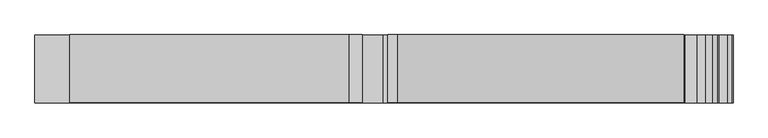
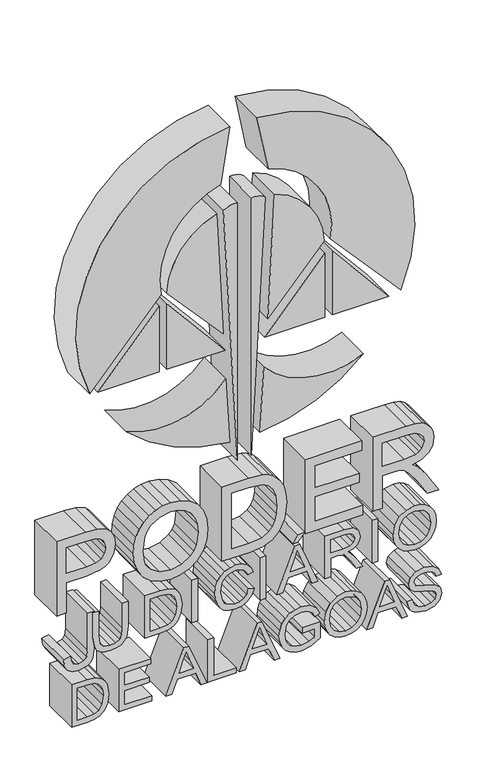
"""IFC4 building model written with IfcOpenShell, lengths in millimetres: furniture geometry, Logomarca para revit : Logomarca para revit."""

from ifc_helpers import new_model, si_unit, point, frame, frame_2d, origin, place, context, project, spatial, polyline, circle_curve, trimmed, segment, composite_curve, outline, extrude, source, transform, mapped, element, save


def furniture_1719f5d7(model_context):
    return source(origin(), model_context, "Body", "SweptSolid", [
        extrude(outline(polyline([(56.25, 421.6920671), (33.3398438, 428.1666764), (24.4775391, 435.4799089), (18.1640625, 445.1149186), (13.125, 471.9069108), (17.7978516, 494.5973405), (30.8935547, 510.0660905), (48.8378906, 515.4420671), (65.8007813, 510.7692155), (77.9589844, 496.2526139), (85.4882813, 469.7096452), (93.8671875, 445.2174577), (104.2675781, 440.4420671), (111.027832, 442.1266374), (116.71875, 447.1803483), (120.5859375, 455.9181413), (121.875, 468.6549577), (120.5712891, 481.0988054), (116.6601563, 490.0709733), (110.2001953, 495.8131608), (101.25, 498.5670671), (101.25, 513.5670671), (120.0292969, 507.6198014), (132.5976563, 491.7994889), (136.875, 468.0690202), (132.7880859, 445.8326921), (120.8056641, 430.6422624), (103.828125, 425.4420671), (88.9160156, 429.6461686), (77.7539063, 442.4049577), (70.3564453, 465.9156999), (64.6289063, 487.7565202), (57.8173828, 497.9518327), (48.4570313, 500.4420671), (38.3935547, 497.1168718), (30.8642578, 486.9948014), (28.125, 471.3209733), (31.7431641, 453.3326921), (41.2353516, 441.5260514), (56.25, 436.6920671), (56.25, 421.6920671)])), frame((0.0, -100.0, 0.0), z_axis=(0.0, 1.0, 0.0), x_axis=(0.0, 0.0, 1.0)), (0.0, 0.0, 1.0), 100.0),
        extrude(outline(polyline([(15.0, 315.1141803), (15.0, 330.9637897), (52.5, 344.6747272), (52.5, 394.0985553), (15.0, 407.8387897), (15.0, 423.688399), (135.0, 375.7880084), (135.0, 363.0145709), (15.0, 315.1141803)]), holes=[polyline([(67.5, 350.1825397), (99.5800781, 361.9305865), (120.0, 369.4012897), (97.0019531, 377.8094928), (67.5, 388.6200397), (67.5, 350.1825397)])]), frame((0.0, -100.0, 0.0), z_axis=(0.0, 1.0, 0.0), x_axis=(0.0, 0.0, 1.0)), (0.0, 0.0, 1.0), 100.0),
        extrude(outline(polyline([(77.6453805, 201.6816027), (62.2974801, 203.3954699), (47.7772164, 208.5370714), (35.1575875, 217.0038683), (25.5115914, 228.6933214), (19.3922066, 242.8876574), (17.3524117, 258.8691027), (19.1981148, 273.9240343), (24.7352242, 287.9169543), (33.8612008, 299.8481066), (46.4735055, 308.7177355), (61.7884469, 314.2218859), (79.0223336, 316.0566027), (96.0291695, 314.3134386), (111.1317086, 309.0839464), (123.7220406, 300.5292589), (133.1922555, 288.8105089), (139.1248727, 274.6967394), (141.1024117, 258.9569933), (136.8909859, 235.9955675), (124.2567086, 217.6776964), (104.181025, 205.6806261), (77.6453805, 201.6816027)]), holes=[polyline([(77.4988961, 216.6816027), (99.9439645, 219.8090441), (114.896357, 229.1913683), (123.300898, 242.90963), (126.1024117, 259.0448839), (120.286982, 281.0614855), (113.2813668, 289.6857531), (103.8953805, 295.9589464), (79.1395211, 301.0566027), (59.2835641, 298.0793078), (44.5399117, 289.147423), (35.3992867, 275.6012804), (32.3524117, 258.7812121), (35.3699898, 242.2028429), (44.4227242, 228.678673), (58.7269234, 219.6808703), (77.4988961, 216.6816027)])]), frame((0.0, -100.0, 0.0), z_axis=(0.0, 1.0, 0.0), x_axis=(0.0, 0.0, 1.0)), (0.0, 0.0, 1.0), 100.0),
        extrude(outline(polyline([(65.4977347, 143.0042725), (65.4977347, 176.7542725), (43.8180472, 176.7542725), (35.6002737, 161.5638428), (31.7477347, 141.0413819), (36.8600394, 118.175171), (43.3273245, 108.6903077), (52.5045706, 101.768921), (64.3075491, 97.5391846), (78.6520316, 96.1292725), (102.2067191, 100.8167725), (113.7643362, 108.5364991), (122.26043, 121.6029053), (125.4977347, 140.8070069), (122.494805, 157.6673585), (114.4967581, 169.3568116), (100.6246878, 176.1976319), (104.5211722, 190.0257569), (124.369805, 180.9583741), (136.2350394, 164.5081788), (140.4977347, 141.0413819), (138.6593558, 124.2103272), (133.1442191, 109.4593507), (123.8461234, 97.348755), (110.6588675, 88.4388428), (94.9374319, 82.9566651), (78.0367972, 81.1292725), (61.257012, 82.9639893), (46.1325003, 88.4681397), (33.5238577, 97.5721436), (24.29168, 110.206421), (18.633721, 125.4151612), (16.7477347, 142.2425538), (21.4938284, 167.6868897), (35.6442191, 191.7542725), (80.4977347, 191.7542725), (80.4977347, 143.0042725), (65.4977347, 143.0042725)])), frame((0.0, -100.0, 0.0), z_axis=(0.0, 1.0, 0.0), x_axis=(0.0, 0.0, 1.0)), (0.0, 0.0, 1.0), 100.0),
        extrude(outline(polyline([(15.0, -24.6363138), (15.0, -8.7867045), (52.5, 4.924233), (52.5, 54.3480612), (15.0, 68.0882955), (15.0, 83.9379049), (135.0, 36.0375143), (135.0, 23.2640768), (15.0, -24.6363138)]), holes=[polyline([(67.5, 10.4320455), (99.5800781, 22.1800924), (120.0, 29.6507955), (97.0019531, 38.0589987), (67.5, 48.8695455), (67.5, 10.4320455)])]), frame((0.0, -100.0, 0.0), z_axis=(0.0, 1.0, 0.0), x_axis=(0.0, 0.0, 1.0)), (0.0, 0.0, 1.0), 100.0),
        extrude(outline(polyline([(15.0, -108.0469996), (15.0, -33.0469996), (30.0, -33.0469996), (30.0, -93.0469996), (135.0, -93.0469996), (135.0, -108.0469996), (15.0, -108.0469996)])), frame((0.0, -100.0, 0.0), z_axis=(0.0, 1.0, 0.0), x_axis=(0.0, 0.0, 1.0)), (0.0, 0.0, 1.0), 100.0),
        extrude(outline(polyline([(15.0, -219.9345631), (15.0, -204.0849537), (52.5, -190.3740162), (52.5, -140.9501881), (15.0, -127.2099537), (15.0, -111.3603444), (135.0, -159.260735), (135.0, -172.0341725), (15.0, -219.9345631)]), holes=[polyline([(67.5, -184.8662037), (99.5800781, -173.1181569), (120.0, -165.6474537), (97.0019531, -157.2392506), (67.5, -146.4287037), (67.5, -184.8662037)])]), frame((0.0, -100.0, 0.0), z_axis=(0.0, 1.0, 0.0), x_axis=(0.0, 0.0, 1.0)), (0.0, 0.0, 1.0), 100.0),
        extrude(outline(polyline([(15.0, -346.2553142), (15.0, -258.1303142), (30.0, -258.1303142), (30.0, -331.2553142), (69.375, -331.2553142), (69.375, -263.7553142), (84.375, -263.7553142), (84.375, -331.2553142), (120.0, -331.2553142), (120.0, -260.0053142), (135.0, -260.0053142), (135.0, -346.2553142), (15.0, -346.2553142)])), frame((0.0, -100.0, 0.0), z_axis=(0.0, 1.0, 0.0), x_axis=(0.0, 0.0, 1.0)), (0.0, 0.0, 1.0), 100.0),
        extrude(outline(polyline([(15.0, -471.4672869), (15.0, -428.078615), (17.0507813, -408.7866228), (23.0712891, -394.4458025), (33.9550781, -383.4887713), (51.4306641, -375.2856463), (75.6445313, -372.0922869), (104.1796875, -376.8090838), (115.546875, -382.7197283), (124.6875, -391.0180682), (133.2714844, -408.6547869), (135.0, -430.0708025), (135.0, -471.4672869), (15.0, -471.4672869)]), holes=[polyline([(30.0, -456.4672869), (120.0, -456.4672869), (120.0, -430.3344744), (117.5976563, -409.0649432), (112.5878906, -400.58716), (104.296875, -393.4936541), (92.2265625, -388.6926287), (75.8789063, -387.0922869), (53.1884766, -390.3588885), (38.2910156, -399.484865), (32.1679688, -410.6176775), (30.0, -429.9243182), (30.0, -456.4672869)])]), frame((0.0, -100.0, 0.0), z_axis=(0.0, 1.0, 0.0), x_axis=(0.0, 0.0, 1.0)), (0.0, 0.0, 1.0), 100.0),
        extrude(outline(polyline([(256.0319515, 385.8694508), (240.6840511, 387.5833179), (226.1637875, 392.7249195), (213.5441586, 401.1917164), (203.8981625, 412.8811695), (197.7787777, 427.0755054), (195.7389828, 443.0569508), (197.5846859, 458.1118824), (203.1217953, 472.1048023), (212.2477718, 484.0359547), (224.8600765, 492.9055836), (240.1750179, 498.409734), (257.4089046, 500.2444508), (274.4157406, 498.5012867), (289.5182796, 493.2717945), (302.1086117, 484.717107), (311.5788265, 472.998357), (317.5114437, 458.8845875), (319.4889828, 443.1448414), (315.277557, 420.1834156), (302.6432796, 401.8655445), (282.5675961, 389.8684742), (256.0319515, 385.8694508)]), holes=[polyline([(255.8854671, 400.8694508), (278.3305355, 403.9968922), (293.2829281, 413.3792164), (301.6874691, 427.0974781), (304.4889828, 443.232732), (298.6735531, 465.2493336), (291.6679378, 473.8736011), (282.2819515, 480.1467945), (257.5260921, 485.2444508), (237.6701351, 482.2671558), (222.9264828, 473.3352711), (213.7858578, 459.7891285), (210.7389828, 442.9690601), (213.7565609, 426.390691), (222.8092953, 412.8665211), (237.1134945, 403.8687183), (255.8854671, 400.8694508)])]), frame((0.0, -100.0, 0.0), z_axis=(0.0, 1.0, 0.0), x_axis=(0.0, 0.0, 1.0)), (0.0, 0.0, 1.0), 100.0),
        extrude(outline(polyline([(344.9090474, -100.0), (329.9090474, -100.0), (329.9090474, 0.0), (344.9090474, 0.0), (344.9090474, -100.0)])), frame((0.0, 0.0, 197.6139828), z_axis=(0.0, 0.0, 1.0), x_axis=(1.0, 0.0, 0.0)), (0.0, 0.0, 1.0), 120.0),
        extrude(outline(polyline([(197.6139828, 203.8553296), (197.6139828, 218.8553296), (250.1139828, 218.8553296), (250.1139828, 236.9607983), (249.586639, 245.6619702), (246.7301937, 252.7957593), (238.9518734, 260.720564), (222.4870296, 271.9998608), (197.6139828, 287.6150952), (197.6139828, 305.0467358), (230.133514, 285.0369702), (245.5729671, 272.8787671), (251.9889828, 264.3533765), (255.9660336, 279.1299878), (263.1510921, 289.4754468), (272.9508968, 295.5728589), (284.7721859, 297.6053296), (302.9216, 292.698103), (314.3766781, 279.573103), (317.6139828, 255.564314), (317.6139828, 203.8553296), (197.6139828, 203.8553296)]), holes=[polyline([(265.1139828, 218.8553296), (302.6139828, 218.8553296), (302.6139828, 256.2088452), (301.3175961, 268.0777417), (297.4284359, 276.2625561), (291.5324398, 281.0196362), (284.2155453, 282.6053296), (274.0348812, 279.2801343), (267.2380062, 269.5535718), (265.1139828, 252.4295483), (265.1139828, 218.8553296)])]), frame((0.0, -100.0, 0.0), z_axis=(0.0, 1.0, 0.0), x_axis=(0.0, 0.0, 1.0)), (0.0, 0.0, 1.0), 100.0),
        extrude(outline(polyline([(197.6139828, 75.9083467), (197.6139828, 91.7579561), (235.1139828, 105.4688936), (235.1139828, 154.8927217), (197.6139828, 168.6329561), (197.6139828, 184.4825655), (317.6139828, 136.5821748), (317.6139828, 123.8087373), (197.6139828, 75.9083467)]), holes=[polyline([(250.1139828, 110.9767061), (282.1940609, 122.724753), (302.6139828, 130.1954561), (279.6159359, 138.6036592), (250.1139828, 149.4142061), (250.1139828, 110.9767061)])]), frame((0.0, -100.0, 0.0), z_axis=(0.0, 1.0, 0.0), x_axis=(0.0, 0.0, 1.0)), (0.0, 0.0, 1.0), 100.0),
        extrude(outline(polyline([(325.1139828, 119.8829561), (325.1139828, 131.1329561), (347.6139828, 149.8829561), (347.6139828, 131.1329561), (325.1139828, 119.8829561)])), frame((0.0, -100.0, 0.0), z_axis=(0.0, 1.0, 0.0), x_axis=(0.0, 0.0, 1.0)), (0.0, 0.0, 1.0), 100.0),
        extrude(outline(polyline([(46.3995754, -100.0), (31.3995754, -100.0), (31.3995754, 0.0), (46.3995754, 0.0), (46.3995754, -100.0)])), frame((0.0, 0.0, 197.6139828), z_axis=(0.0, 0.0, 1.0), x_axis=(1.0, 0.0, 0.0)), (0.0, 0.0, 1.0), 120.0),
        extrude(outline(polyline([(240.2702328, 0.0371217), (227.4235531, -4.8151732), (218.180389, -12.6923704), (212.5993343, -23.1257201), (210.7389828, -35.646472), (216.20285, -56.3447142), (223.0619808, -64.6503783), (232.711639, -70.4365111), (258.5514828, -74.9628783), (280.8464046, -71.1396361), (290.5583187, -65.913806), (298.0729671, -57.8828001), (302.8849789, -47.299304), (304.4889828, -34.4160033), (303.0424496, -23.2392454), (298.70285, -14.1425658), (291.1991878, -7.0380736), (280.2604671, -1.8378783), (283.8346859, 13.1621217), (298.8932796, 6.5373659), (310.1432796, -3.7861204), (317.152557, -17.3835326), (319.4889828, -33.8300658), (317.6835628, -48.9033079), (312.2673031, -62.6581908), (303.3720394, -74.2560911), (291.1296078, -82.8583861), (276.0197445, -88.1867552), (258.5221859, -89.9628783), (241.9328304, -88.3918333), (226.4421078, -83.6786986), (213.2658382, -75.958972), (203.6198421, -65.3681517), (197.7091976, -51.551013), (195.7389828, -34.1523314), (198.3427425, -17.0136595), (206.1540218, -2.7460814), (218.9237972, 8.115735), (236.4030453, 15.0371217), (240.2702328, 0.0371217)])), frame((0.0, -100.0, 0.0), z_axis=(0.0, 1.0, 0.0), x_axis=(0.0, 0.0, 1.0)), (0.0, 0.0, 1.0), 100.0),
        extrude(outline(polyline([(-135.6934999, -100.0), (-150.6934999, -100.0), (-150.6934999, 0.0), (-135.6934999, 0.0), (-135.6934999, -100.0)])), frame((0.0, 0.0, 197.6139828), z_axis=(0.0, 0.0, 1.0), x_axis=(1.0, 0.0, 0.0)), (0.0, 0.0, 1.0), 120.0),
        extrude(outline(polyline([(197.6139828, -276.1070961), (197.6139828, -232.7184243), (199.664764, -213.4264321), (205.6852718, -199.0856118), (216.5690609, -188.1285805), (234.0446468, -179.9254555), (258.258514, -176.7320961), (286.7936703, -181.448893), (298.1608578, -187.3595375), (307.3014828, -195.6578774), (315.8854671, -213.2945961), (317.6139828, -234.7106118), (317.6139828, -276.1070961), (197.6139828, -276.1070961)]), holes=[polyline([(212.6139828, -261.1070961), (302.6139828, -261.1070961), (302.6139828, -234.9742836), (300.211639, -213.7047524), (295.2018734, -205.2269692), (286.9108578, -198.1334633), (274.8405453, -193.3324379), (258.492889, -191.7320961), (235.8024593, -194.9986977), (220.9049984, -204.1246743), (214.7819515, -215.2574868), (212.6139828, -234.5641274), (212.6139828, -261.1070961)])]), frame((0.0, -100.0, 0.0), z_axis=(0.0, 1.0, 0.0), x_axis=(0.0, 0.0, 1.0)), (0.0, 0.0, 1.0), 100.0),
        extrude(outline(polyline([(317.6139828, -335.7738198), (248.9128109, -335.7738198), (230.133514, -337.6707925), (218.6198421, -343.3617105), (212.7091976, -353.5057534), (210.7389828, -368.7621011), (214.7233578, -386.3988198), (226.0466, -396.5648355), (248.9128109, -399.5238198), (317.6139828, -399.5238198), (317.6139828, -414.5238198), (248.3854671, -414.5238198), (218.3415218, -409.9681558), (208.6405941, -403.8890542), (201.539764, -394.7630777), (197.1891781, -382.586564), (195.7389828, -367.3558511), (197.4052425, -351.784562), (202.4040218, -339.5238198), (210.0578304, -330.5516519), (219.6891781, -324.8460855), (248.3854671, -320.7738198), (317.6139828, -320.7738198), (317.6139828, -335.7738198)])), frame((0.0, -100.0, 0.0), z_axis=(0.0, 1.0, 0.0), x_axis=(0.0, 0.0, 1.0)), (0.0, 0.0, 1.0), 100.0),
        extrude(outline(polyline([(213.4444649, -492.5376317), (194.0856392, -490.2305028), (180.1742012, -482.503452), (171.7833931, -469.7684667), (168.9864571, -452.437534), (174.4063789, -429.3845555), (181.0485298, -420.8793065), (190.1351387, -415.0290868), (219.2672188, -410.5063817), (321.3302071, -410.5063817), (321.3302071, -429.2563817), (218.9376289, -429.2563817), (200.3524239, -431.2888524), (191.1239082, -438.7229344), (187.7364571, -451.5586278), (189.2287666, -460.5674169), (193.7056953, -467.3789403), (202.2292549, -471.8375585), (215.8614571, -473.7876317), (213.4444649, -492.5376317)])), frame((0.0, -100.0, 0.0), z_axis=(0.0, 1.0, 0.0), x_axis=(0.0, 0.0, 1.0)), (0.0, 0.0, 1.0), 100.0),
        extrude(outline(polyline([(342.6535755, 330.8580987), (342.6535755, 356.9627141), (434.0197294, 356.9627141), (434.0197294, 388.4718006), (433.101989, 403.614517), (428.1308953, 416.029505), (414.5942246, 429.8211035), (385.9403304, 449.4505506), (342.6535755, 476.6258631), (342.6535755, 506.9622814), (399.2475659, 472.1391324), (426.116965, 450.9801179), (437.2828063, 436.1433151), (444.2040984, 461.8591654), (456.7083111, 479.8634473), (473.7629866, 490.4748205), (494.3356669, 494.0119449), (510.8741134, 491.8769238), (525.9212318, 485.4718607), (538.0557991, 475.491434), (545.8565924, 462.6303223), (550.0820221, 445.033925), (551.4904986, 420.847642), (551.4904986, 330.8580987), (342.6535755, 330.8580987)]), holes=[polyline([(460.1243448, 356.9627141), (525.3858832, 356.9627141), (525.3858832, 421.9693247), (523.1297715, 442.6248565), (516.3614361, 456.8689521), (506.1005888, 465.1477351), (493.3669409, 467.9073295), (475.6494529, 462.1204665), (468.6261897, 454.9952321), (463.8207991, 445.193255), (460.1243448, 415.3921852), (460.1243448, 356.9627141)])]), frame((0.0, -100.0, 0.0), z_axis=(0.0, 1.0, 0.0), x_axis=(0.0, 0.0, 1.0)), (0.0, 0.0, 1.0), 100.0),
        extrude(outline(polyline([(342.6535755, 151.1633909), (342.6535755, 304.5280063), (368.7581909, 304.5280063), (368.7581909, 177.2680063), (437.2828063, 177.2680063), (437.2828063, 294.7387755), (463.3874217, 294.7387755), (463.3874217, 177.2680063), (525.3858832, 177.2680063), (525.3858832, 301.2649294), (551.4904986, 301.2649294), (551.4904986, 151.1633909), (342.6535755, 151.1633909)])), frame((0.0, -100.0, 0.0), z_axis=(0.0, 1.0, 0.0), x_axis=(0.0, 0.0, 1.0)), (0.0, 0.0, 1.0), 100.0),
        extrude(outline(polyline([(342.6535755, -71.113653), (342.6535755, 4.3959864), (346.2225659, 37.9699888), (356.700102, 62.9274287), (375.6412438, 81.9960345), (406.0541404, 96.271996), (448.1937198, 101.8294239), (474.5787558, 99.7772545), (497.8536717, 93.620746), (517.6360755, 83.3344059), (533.5435755, 68.8927412), (542.6827402, 54.8462148), (548.4823496, 38.1994239), (551.4904986, 0.9289672), (551.4904986, -71.113653), (342.6535755, -71.113653)]), holes=[polyline([(368.7581909, -45.0090376), (525.3858832, -45.0090376), (525.3858832, 0.470097), (521.2050659, 37.4856259), (512.4865323, 52.2395772), (498.057614, 64.58446), (477.0515563, 72.9397214), (448.6016044, 75.7248085), (427.1303033, 74.3035856), (409.1132751, 70.0399167), (394.4867877, 63.226969), (383.1871092, 54.1579095), (372.5311236, 34.7833903), (368.7581909, 1.1838951), (368.7581909, -45.0090376)])]), frame((0.0, -100.0, 0.0), z_axis=(0.0, 1.0, 0.0), x_axis=(0.0, 0.0, 1.0)), (0.0, 0.0, 1.0), 100.0),
        extrude(outline(polyline([(445.2031772, -307.0799836), (418.4931081, -304.0973274), (393.2233815, -295.1493586), (371.2613443, -280.4145269), (354.4743431, -260.0712817), (343.8247307, -235.3687697), (340.2748599, -207.5561375), (343.4869513, -181.3559241), (353.1232253, -157.0039379), (369.0052325, -136.2400617), (390.9545234, -120.8041783), (417.6072337, -111.2252631), (447.5994993, -108.0322913), (477.1966267, -111.0659331), (503.4796916, -120.1668586), (525.3907433, -135.0546471), (541.8718311, -155.4488778), (552.1964104, -180.0111795), (555.6379368, -207.4031807), (553.8056427, -228.3933054), (548.3087601, -247.3631266), (539.1472893, -264.3126444), (526.3212301, -279.2418586), (510.2575868, -291.4210383), (491.3833635, -300.1204524), (469.6985603, -305.3401008), (445.2031772, -307.0799836)]), holes=[polyline([(444.9482493, -280.9753682), (484.0095744, -275.5326579), (498.6504015, -268.72927), (510.0313383, -259.2045269), (524.6578257, -235.3305305), (529.5333214, -207.250224), (527.0031622, -187.0408159), (519.4126844, -168.9345629), (507.2207583, -153.9256837), (490.8862541, -143.0083971), (470.9126544, -136.3547793), (447.8034416, -134.1369067), (413.2479669, -139.3183159), (399.3065982, -145.7950775), (387.5894753, -154.8625437), (371.6819753, -178.4369998), (366.3794753, -207.7090942), (371.6309897, -236.5605575), (387.385533, -260.0967745), (398.8604744, -269.2311592), (412.2792409, -275.7557198), (444.9482493, -280.9753682)])]), frame((0.0, -100.0, 0.0), z_axis=(0.0, 1.0, 0.0), x_axis=(0.0, 0.0, 1.0)), (0.0, 0.0, 1.0), 100.0),
        extrude(outline(polyline([(342.6535755, -511.265517), (342.6535755, -485.1609016), (427.4935755, -485.1609016), (427.4935755, -432.0849161), (432.1077703, -394.999282), (437.8755136, -381.5279366), (445.9503544, -371.4375723), (466.4593027, -358.8377616), (491.07259, -354.6378247), (505.9412588, -356.1928848), (519.5480347, -360.8580651), (531.0835215, -368.0788974), (539.7383231, -377.3009137), (549.5020611, -402.6662382), (551.4904986, -433.8694112), (551.4904986, -511.265517), (342.6535755, -511.265517)]), holes=[polyline([(453.5981909, -485.1609016), (525.3858832, -485.1609016), (525.3858832, -431.1671757), (523.601388, -405.0625603), (519.2166284, -395.2032243), (511.7727342, -387.4470435), (501.8815323, -382.4185909), (490.1548496, -380.7424401), (474.7189662, -383.584886), (463.1834794, -392.1122237), (455.994513, -407.4078968), (453.5981909, -430.5553487), (453.5981909, -485.1609016)])]), frame((0.0, -100.0, 0.0), z_axis=(0.0, 1.0, 0.0), x_axis=(0.0, 0.0, 1.0)), (0.0, 0.0, 1.0), 100.0),
        extrude(outline(composite_curve([segment(trimmed(circle_curve(frame_2d((1115.6606985, -14.5586746)), 445.4554343), [point((1559.7223127, -49.7698483))], [point((938.2760197, -423.1724526))], False, "CARTESIAN"), True, "CONTINUOUS"), segment(polyline([(938.2760197, -423.1724526), (1152.216191, -232.9929696)]), True, "CONTINUOUS"), segment(trimmed(circle_curve(frame_2d((1191.5434957, -12.867826)), 223.6106343), [point((1152.216191, -232.9929696))], [point((1406.6306199, -74.0171904))], True, "CARTESIAN"), True, "CONTINUOUS"), segment(polyline([(1406.6306199, -74.0171904), (1559.7223127, -49.7698483)]), True, "CONTINUOUS")], self_intersect=False)), frame((0.0, -100.0, 0.0), z_axis=(0.0, 1.0, 0.0), x_axis=(0.0, 0.0, 1.0)), (0.0, 0.0, 1.0), 100.0),
        extrude(outline(composite_curve([segment(trimmed(circle_curve(frame_2d((1186.6053916, -4.7516399)), 226.1582963), [point((1405.4611632, 52.2547299))], [point((1149.66664, 218.3696356))], True, "CARTESIAN"), True, "CONTINUOUS"), segment(polyline([(1149.66664, 218.3696356), (941.5860888, 405.7262054)]), True, "CONTINUOUS"), segment(trimmed(circle_curve(frame_2d((1119.5937491, 2.8787306)), 440.4234498), [point((941.5860888, 405.7262054))], [point((1559.5889893, 22.2953155))], False, "CARTESIAN"), True, "CONTINUOUS"), segment(polyline([(1559.5889893, 22.2953155), (1405.4611632, 52.2547299)]), True, "CONTINUOUS")], self_intersect=False)), frame((0.0, -100.0, 0.0), z_axis=(0.0, 1.0, 0.0), x_axis=(0.0, 0.0, 1.0)), (0.0, 0.0, 1.0), 100.0),
        extrude(outline(polyline([(934.3422869, -237.1421228), (1119.9570952, -237.1421228), (934.3422869, -402.1421228), (934.3422869, -237.1421228)])), frame((0.0, -100.0, 0.0), z_axis=(0.0, 1.0, 0.0), x_axis=(0.0, 0.0, 1.0)), (0.0, 0.0, 1.0), 100.0),
        extrude(outline(polyline([(1119.3422869, -217.1421228), (934.3422869, -217.1421228), (934.3422869, -61.9086911), (1119.3422869, -217.1421228)])), frame((0.0, -100.0, 0.0), z_axis=(0.0, 1.0, 0.0), x_axis=(0.0, 0.0, 1.0)), (0.0, 0.0, 1.0), 100.0),
        extrude(outline(polyline([(934.3422869, 202.8578772), (1114.3422869, 202.8578772), (934.3422869, 42.8490919), (934.3422869, 202.8578772)])), frame((0.0, -100.0, 0.0), z_axis=(0.0, 1.0, 0.0), x_axis=(0.0, 0.0, 1.0)), (0.0, 0.0, 1.0), 100.0),
        extrude(outline(polyline([(934.3422869, 373.8958108), (1114.3422869, 222.8578772), (934.3422869, 222.8578772), (934.3422869, 373.8958108)])), frame((0.0, -100.0, 0.0), z_axis=(0.0, 1.0, 0.0), x_axis=(0.0, 0.0, 1.0)), (0.0, 0.0, 1.0), 100.0),
        extrude(outline(composite_curve([segment(polyline([(613.0560443, -29.6302064), (1338.0560443, -29.6302064)]), True, "CONTINUOUS"), segment(trimmed(circle_curve(frame_2d((1284.8601522, -38.8067819)), 53.9815939), [point((1338.0560443, -29.6302064))], [point((1330.7449188, -67.2426865))], False, "CARTESIAN"), True, "CONTINUOUS"), segment(polyline([(1330.7449188, -67.2426865), (613.0560443, -29.6302064)]), True, "CONTINUOUS")], self_intersect=False)), frame((0.0, -100.0, 0.0), z_axis=(0.0, 1.0, 0.0), x_axis=(0.0, 0.0, 1.0)), (0.0, 0.0, 1.0), 100.0),
        extrude(outline(composite_curve([segment(polyline([(613.5959137, 7.9083042), (1327.616031, 45.3285129)]), True, "CONTINUOUS"), segment(trimmed(circle_curve(frame_2d((1293.8565977, 15.1018098)), 45.3139374), [point((1327.616031, 45.3285129))], [point((1338.5959137, 7.9083042))], False, "CARTESIAN"), True, "CONTINUOUS"), segment(polyline([(1338.5959137, 7.9083042), (613.5959137, 7.9083042)]), True, "CONTINUOUS")], self_intersect=False)), frame((0.0, -100.0, 0.0), z_axis=(0.0, 1.0, 0.0), x_axis=(0.0, 0.0, 1.0)), (0.0, 0.0, 1.0), 100.0),
        extrude(outline(composite_curve([segment(polyline([(671.6575419, -50.4994706), (853.2466726, -60.0161537)]), True, "CONTINUOUS"), segment(trimmed(circle_curve(frame_2d((1000.4933231, -230.1117988)), 224.9757866), [point((853.2466726, -60.0161537))], [point((796.7926827, -325.6112945))], True, "CARTESIAN"), True, "CONTINUOUS"), segment(trimmed(circle_curve(frame_2d((1115.6606985, -14.5586746)), 445.4554343), [point((796.7926827, -325.6112945))], [point((671.6575419, -50.4994706))], False, "CARTESIAN"), True, "CONTINUOUS")], self_intersect=False)), frame((0.0, -100.0, 0.0), z_axis=(0.0, 1.0, 0.0), x_axis=(0.0, 0.0, 1.0)), (0.0, 0.0, 1.0), 100.0),
        extrude(outline(composite_curve([segment(trimmed(circle_curve(frame_2d((1114.4504497, -5.3924223)), 445.4554343), [point((670.447293, 30.5483737))], [point((795.5824338, 305.6601976))], False, "CARTESIAN"), True, "CONTINUOUS"), segment(trimmed(circle_curve(frame_2d((999.2830742, 210.1607019)), 224.9757866), [point((795.5824338, 305.6601976))], [point((852.0364237, 40.0650568))], True, "CARTESIAN"), True, "CONTINUOUS"), segment(polyline([(852.0364237, 40.0650568), (670.447293, 30.5483737)]), True, "CONTINUOUS")], self_intersect=False)), frame((0.0, -100.0, 0.0), z_axis=(0.0, 1.0, 0.0), x_axis=(0.0, 0.0, 1.0)), (0.0, 0.0, 1.0), 100.0),
        extrude(outline(composite_curve([segment(polyline([(982.5714537, -66.9052466), (1327.0986432, -84.9611515)]), True, "CONTINUOUS"), segment(trimmed(circle_curve(frame_2d((1143.8155832, -24.0999346)), 193.1237111), [point((1327.0986432, -84.9611515))], [point((1149.4264087, -217.1421228))], False, "CARTESIAN"), True, "CONTINUOUS"), segment(polyline([(1149.4264087, -217.1421228), (982.5714537, -66.9052466)]), True, "CONTINUOUS")], self_intersect=False)), frame((0.0, -100.0, 0.0), z_axis=(0.0, 1.0, 0.0), x_axis=(0.0, 0.0, 1.0)), (0.0, 0.0, 1.0), 100.0),
        extrude(outline(composite_curve([segment(polyline([(983.3949993, 51.1910597), (1150.2499543, 201.427936)]), True, "CONTINUOUS"), segment(trimmed(circle_curve(frame_2d((1144.6391288, 8.3857478)), 193.1237111), [point((1150.2499543, 201.427936))], [point((1327.9221888, 69.2469646))], False, "CARTESIAN"), True, "CONTINUOUS"), segment(polyline([(1327.9221888, 69.2469646), (983.3949993, 51.1910597)]), True, "CONTINUOUS")], self_intersect=False)), frame((0.0, -100.0, 0.0), z_axis=(0.0, 1.0, 0.0), x_axis=(0.0, 0.0, 1.0)), (0.0, 0.0, 1.0), 100.0),
    ])


if __name__ == "__main__":
    model = new_model("IFC4")
    model_context = context("Model", 3, world=origin())
    ifc_project = project(units=[si_unit("LENGTHUNIT", "METRE", prefix="MILLI")], contexts=[model_context])
    site = spatial("IfcSite", under=ifc_project)
    building = spatial("IfcBuilding", under=site)
    placement = place(None, origin())
    furniture_shape = furniture_1719f5d7(model_context)
    element("IfcFurniture", 1, ObjectType="Logomarca para revit : Logomarca para revit", at=placement, inside=building, context=model_context, shape_type="MappedRepresentation", body=[
        mapped(furniture_shape, transform((0.0, 0.0, 0.0), x_axis=(1.0, 0.0, 0.0), y_axis=(0.0, 1.0, 0.0), z_axis=(0.0, 0.0, 1.0))),
    ])
    save(model, "model.ifc")
